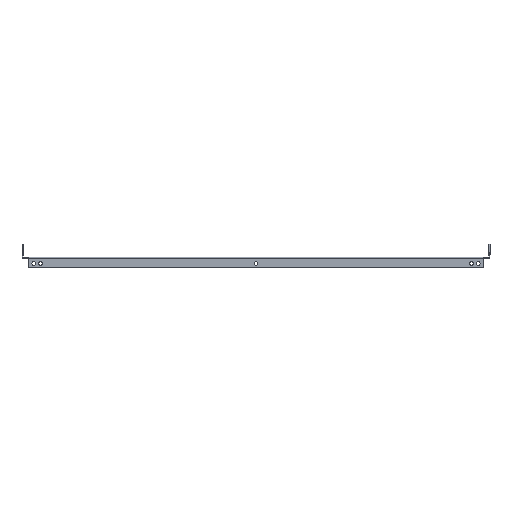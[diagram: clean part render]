
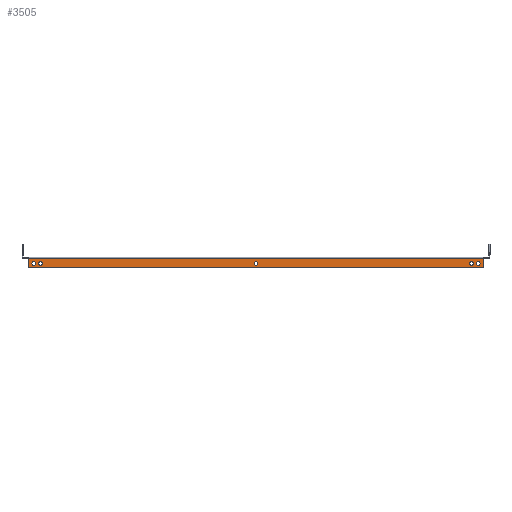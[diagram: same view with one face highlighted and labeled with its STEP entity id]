
A CAD part, left-side view. The second image highlights one B-rep face of the part: STEP entity #3505.
In plain terms, the highlighted planar face has unit normal (-1, 0, 0).
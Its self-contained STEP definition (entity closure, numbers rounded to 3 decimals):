
#4 = EDGE_LOOP ( 'NONE', ( #822, #2074 ) ) ;
#43 = CIRCLE ( 'NONE', #4162, 3.5 ) ;
#134 = DIRECTION ( 'NONE',  ( 0., 0., 1. ) ) ;
#144 = DIRECTION ( 'NONE',  ( -1., 0., 0. ) ) ;
#145 = FACE_BOUND ( 'NONE', #952, .T. ) ;
#151 = VERTEX_POINT ( 'NONE', #598 ) ;
#226 = CARTESIAN_POINT ( 'NONE',  ( -100., 400., -6. ) ) ;
#233 = FACE_BOUND ( 'NONE', #4, .T. ) ;
#247 = VERTEX_POINT ( 'NONE', #3249 ) ;
#287 = EDGE_CURVE ( 'NONE', #4245, #3418, #1986, .T. ) ;
#290 = DIRECTION ( 'NONE',  ( 0., 0., 1. ) ) ;
#415 = VERTEX_POINT ( 'NONE', #3775 ) ;
#496 = CARTESIAN_POINT ( 'NONE',  ( -100., -412.5, -13. ) ) ;
#507 = VERTEX_POINT ( 'NONE', #3524 ) ;
#524 = PLANE ( 'NONE',  #1665 ) ;
#529 = AXIS2_PLACEMENT_3D ( 'NONE', #2872, #4243, #4015 ) ;
#545 = EDGE_CURVE ( 'NONE', #507, #247, #2704, .T. ) ;
#585 = CARTESIAN_POINT ( 'NONE',  ( -100., 412.5, -9.5 ) ) ;
#591 = EDGE_CURVE ( 'NONE', #151, #2467, #3011, .T. ) ;
#598 = CARTESIAN_POINT ( 'NONE',  ( -100., -412.5, -6. ) ) ;
#605 = CIRCLE ( 'NONE', #1191, 3.5 ) ;
#614 = DIRECTION ( 'NONE',  ( 0., 0., -1. ) ) ;
#618 = EDGE_CURVE ( 'NONE', #1482, #2897, #3724, .T. ) ;
#705 = EDGE_LOOP ( 'NONE', ( #1884, #3191 ) ) ;
#743 = AXIS2_PLACEMENT_3D ( 'NONE', #1746, #3388, #1368 ) ;
#752 = CARTESIAN_POINT ( 'NONE',  ( -100., 400., -9.5 ) ) ;
#822 = ORIENTED_EDGE ( 'NONE', *, *, #1236, .F. ) ;
#842 = DIRECTION ( 'NONE',  ( 0., 1., 0. ) ) ;
#846 = VERTEX_POINT ( 'NONE', #1207 ) ;
#952 = EDGE_LOOP ( 'NONE', ( #3047, #1578 ) ) ;
#989 = EDGE_CURVE ( 'NONE', #2733, #415, #605, .T. ) ;
#1028 = AXIS2_PLACEMENT_3D ( 'NONE', #1300, #1700, #2691 ) ;
#1070 = EDGE_CURVE ( 'NONE', #846, #1547, #1435, .T. ) ;
#1161 = DIRECTION ( 'NONE',  ( 0., 0., -1. ) ) ;
#1163 = FACE_BOUND ( 'NONE', #1794, .T. ) ;
#1181 = DIRECTION ( 'NONE',  ( 1., 0., 0. ) ) ;
#1190 = FACE_OUTER_BOUND ( 'NONE', #4147, .T. ) ;
#1191 = AXIS2_PLACEMENT_3D ( 'NONE', #3762, #3091, #290 ) ;
#1207 = CARTESIAN_POINT ( 'NONE',  ( -100., 422.5, -14. ) ) ;
#1236 = EDGE_CURVE ( 'NONE', #1754, #2598, #1264, .T. ) ;
#1246 = ORIENTED_EDGE ( 'NONE', *, *, #287, .T. ) ;
#1264 = CIRCLE ( 'NONE', #4221, 3.5 ) ;
#1268 = CARTESIAN_POINT ( 'NONE',  ( -100., -419.5, -17. ) ) ;
#1300 = CARTESIAN_POINT ( 'NONE',  ( -100., 0., -9.5 ) ) ;
#1310 = VECTOR ( 'NONE', #1697, 1000. ) ;
#1322 = CARTESIAN_POINT ( 'NONE',  ( -100., -422.5, -17. ) ) ;
#1333 = ORIENTED_EDGE ( 'NONE', *, *, #3619, .F. ) ;
#1368 = DIRECTION ( 'NONE',  ( 0., 0., 1. ) ) ;
#1395 = EDGE_CURVE ( 'NONE', #3352, #1547, #2898, .T. ) ;
#1399 = ORIENTED_EDGE ( 'NONE', *, *, #2087, .T. ) ;
#1427 = CIRCLE ( 'NONE', #3031, 3.5 ) ;
#1435 = CIRCLE ( 'NONE', #3457, 3. ) ;
#1463 = ORIENTED_EDGE ( 'NONE', *, *, #989, .F. ) ;
#1482 = VERTEX_POINT ( 'NONE', #2172 ) ;
#1484 = DIRECTION ( 'NONE',  ( -1., 0., 0. ) ) ;
#1491 = CARTESIAN_POINT ( 'NONE',  ( -100., 0., -9.5 ) ) ;
#1540 = VECTOR ( 'NONE', #1772, 1000. ) ;
#1547 = VERTEX_POINT ( 'NONE', #3561 ) ;
#1551 = AXIS2_PLACEMENT_3D ( 'NONE', #1491, #1181, #1748 ) ;
#1578 = ORIENTED_EDGE ( 'NONE', *, *, #545, .F. ) ;
#1589 = CIRCLE ( 'NONE', #4131, 3.5 ) ;
#1591 = DIRECTION ( 'NONE',  ( -1., 0., 0. ) ) ;
#1607 = EDGE_CURVE ( 'NONE', #1482, #3378, #2912, .T. ) ;
#1642 = EDGE_CURVE ( 'NONE', #415, #2733, #1905, .T. ) ;
#1665 = AXIS2_PLACEMENT_3D ( 'NONE', #2581, #2226, #2947 ) ;
#1697 = DIRECTION ( 'NONE',  ( 0., 0., 1. ) ) ;
#1700 = DIRECTION ( 'NONE',  ( 1., 0., 0. ) ) ;
#1746 = CARTESIAN_POINT ( 'NONE',  ( -100., -419.5, -14. ) ) ;
#1748 = DIRECTION ( 'NONE',  ( 0., 0., -1. ) ) ;
#1754 = VERTEX_POINT ( 'NONE', #226 ) ;
#1772 = DIRECTION ( 'NONE',  ( 0., 1., 0. ) ) ;
#1794 = EDGE_LOOP ( 'NONE', ( #1246, #3617 ) ) ;
#1884 = ORIENTED_EDGE ( 'NONE', *, *, #591, .F. ) ;
#1905 = CIRCLE ( 'NONE', #3932, 3.5 ) ;
#1951 = AXIS2_PLACEMENT_3D ( 'NONE', #2854, #144, #1161 ) ;
#1963 = DIRECTION ( 'NONE',  ( 0., 0., 1. ) ) ;
#1968 = CARTESIAN_POINT ( 'NONE',  ( -100., 422.5, 0. ) ) ;
#1986 = CIRCLE ( 'NONE', #1551, 3.5 ) ;
#1989 = ORIENTED_EDGE ( 'NONE', *, *, #1607, .T. ) ;
#2015 = CARTESIAN_POINT ( 'NONE',  ( -100., 400., -13. ) ) ;
#2074 = ORIENTED_EDGE ( 'NONE', *, *, #4084, .F. ) ;
#2087 = EDGE_CURVE ( 'NONE', #3352, #2897, #2774, .T. ) ;
#2091 = DIRECTION ( 'NONE',  ( 0., 0., -1. ) ) ;
#2172 = CARTESIAN_POINT ( 'NONE',  ( -100., -422.5, -0.6 ) ) ;
#2175 = EDGE_CURVE ( 'NONE', #3418, #4245, #4355, .T. ) ;
#2211 = CARTESIAN_POINT ( 'NONE',  ( -100., 0., -13. ) ) ;
#2226 = DIRECTION ( 'NONE',  ( -1., 0., 0. ) ) ;
#2388 = LINE ( 'NONE', #1968, #1310 ) ;
#2467 = VERTEX_POINT ( 'NONE', #496 ) ;
#2571 = CARTESIAN_POINT ( 'NONE',  ( -100., 422.5, -0.6 ) ) ;
#2581 = CARTESIAN_POINT ( 'NONE',  ( -100., 422.5, 0. ) ) ;
#2598 = VERTEX_POINT ( 'NONE', #2015 ) ;
#2681 = DIRECTION ( 'NONE',  ( -1., 0., 0. ) ) ;
#2685 = EDGE_LOOP ( 'NONE', ( #1463, #2844 ) ) ;
#2691 = DIRECTION ( 'NONE',  ( 0., 0., -1. ) ) ;
#2704 = CIRCLE ( 'NONE', #1951, 3.5 ) ;
#2728 = ORIENTED_EDGE ( 'NONE', *, *, #618, .F. ) ;
#2733 = VERTEX_POINT ( 'NONE', #2845 ) ;
#2753 = DIRECTION ( 'NONE',  ( -1., 0., 0. ) ) ;
#2771 = DIRECTION ( 'NONE',  ( -1., 0., 0. ) ) ;
#2774 = CIRCLE ( 'NONE', #743, 3. ) ;
#2844 = ORIENTED_EDGE ( 'NONE', *, *, #1642, .F. ) ;
#2845 = CARTESIAN_POINT ( 'NONE',  ( -100., 412.5, -6. ) ) ;
#2854 = CARTESIAN_POINT ( 'NONE',  ( -100., -400., -9.5 ) ) ;
#2872 = CARTESIAN_POINT ( 'NONE',  ( -100., -412.5, -9.5 ) ) ;
#2897 = VERTEX_POINT ( 'NONE', #4414 ) ;
#2898 = LINE ( 'NONE', #2923, #1540 ) ;
#2912 = LINE ( 'NONE', #2571, #3149 ) ;
#2923 = CARTESIAN_POINT ( 'NONE',  ( -100., 422.5, -17. ) ) ;
#2924 = ORIENTED_EDGE ( 'NONE', *, *, #1070, .T. ) ;
#2947 = DIRECTION ( 'NONE',  ( 0., 0., 1. ) ) ;
#3011 = CIRCLE ( 'NONE', #529, 3.5 ) ;
#3031 = AXIS2_PLACEMENT_3D ( 'NONE', #3482, #4067, #2091 ) ;
#3039 = CARTESIAN_POINT ( 'NONE',  ( -100., 0., -6. ) ) ;
#3047 = ORIENTED_EDGE ( 'NONE', *, *, #4418, .F. ) ;
#3087 = CARTESIAN_POINT ( 'NONE',  ( -100., 400., -9.5 ) ) ;
#3091 = DIRECTION ( 'NONE',  ( -1., 0., 0. ) ) ;
#3149 = VECTOR ( 'NONE', #842, 1000. ) ;
#3191 = ORIENTED_EDGE ( 'NONE', *, *, #3339, .F. ) ;
#3249 = CARTESIAN_POINT ( 'NONE',  ( -100., -400., -6. ) ) ;
#3339 = EDGE_CURVE ( 'NONE', #2467, #151, #1589, .T. ) ;
#3352 = VERTEX_POINT ( 'NONE', #1268 ) ;
#3378 = VERTEX_POINT ( 'NONE', #4098 ) ;
#3388 = DIRECTION ( 'NONE',  ( -1., 0., 0. ) ) ;
#3393 = CARTESIAN_POINT ( 'NONE',  ( -100., -412.5, -9.5 ) ) ;
#3418 = VERTEX_POINT ( 'NONE', #3039 ) ;
#3457 = AXIS2_PLACEMENT_3D ( 'NONE', #3790, #2753, #4122 ) ;
#3482 = CARTESIAN_POINT ( 'NONE',  ( -100., -400., -9.5 ) ) ;
#3505 = ADVANCED_FACE ( 'NONE', ( #1163, #4266, #145, #233, #4290, #1190 ), #524, .T. ) ;
#3524 = CARTESIAN_POINT ( 'NONE',  ( -100., -400., -13. ) ) ;
#3561 = CARTESIAN_POINT ( 'NONE',  ( -100., 419.5, -17. ) ) ;
#3617 = ORIENTED_EDGE ( 'NONE', *, *, #2175, .T. ) ;
#3619 = EDGE_CURVE ( 'NONE', #846, #3378, #2388, .T. ) ;
#3724 = LINE ( 'NONE', #1322, #4377 ) ;
#3762 = CARTESIAN_POINT ( 'NONE',  ( -100., 412.5, -9.5 ) ) ;
#3775 = CARTESIAN_POINT ( 'NONE',  ( -100., 412.5, -13. ) ) ;
#3790 = CARTESIAN_POINT ( 'NONE',  ( -100., 419.5, -14. ) ) ;
#3900 = ORIENTED_EDGE ( 'NONE', *, *, #1395, .F. ) ;
#3932 = AXIS2_PLACEMENT_3D ( 'NONE', #585, #2681, #1963 ) ;
#4015 = DIRECTION ( 'NONE',  ( 0., 0., -1. ) ) ;
#4067 = DIRECTION ( 'NONE',  ( -1., 0., 0. ) ) ;
#4084 = EDGE_CURVE ( 'NONE', #2598, #1754, #43, .T. ) ;
#4098 = CARTESIAN_POINT ( 'NONE',  ( -100., 422.5, -0.6 ) ) ;
#4122 = DIRECTION ( 'NONE',  ( 0., 0., 1. ) ) ;
#4131 = AXIS2_PLACEMENT_3D ( 'NONE', #3393, #1591, #4390 ) ;
#4147 = EDGE_LOOP ( 'NONE', ( #3900, #1399, #2728, #1989, #1333, #2924 ) ) ;
#4162 = AXIS2_PLACEMENT_3D ( 'NONE', #3087, #2771, #4481 ) ;
#4221 = AXIS2_PLACEMENT_3D ( 'NONE', #752, #1484, #134 ) ;
#4243 = DIRECTION ( 'NONE',  ( -1., 0., 0. ) ) ;
#4245 = VERTEX_POINT ( 'NONE', #2211 ) ;
#4266 = FACE_BOUND ( 'NONE', #705, .T. ) ;
#4290 = FACE_BOUND ( 'NONE', #2685, .T. ) ;
#4355 = CIRCLE ( 'NONE', #1028, 3.5 ) ;
#4377 = VECTOR ( 'NONE', #614, 1000. ) ;
#4390 = DIRECTION ( 'NONE',  ( 0., 0., -1. ) ) ;
#4414 = CARTESIAN_POINT ( 'NONE',  ( -100., -422.5, -14. ) ) ;
#4418 = EDGE_CURVE ( 'NONE', #247, #507, #1427, .T. ) ;
#4481 = DIRECTION ( 'NONE',  ( 0., 0., 1. ) ) ;
